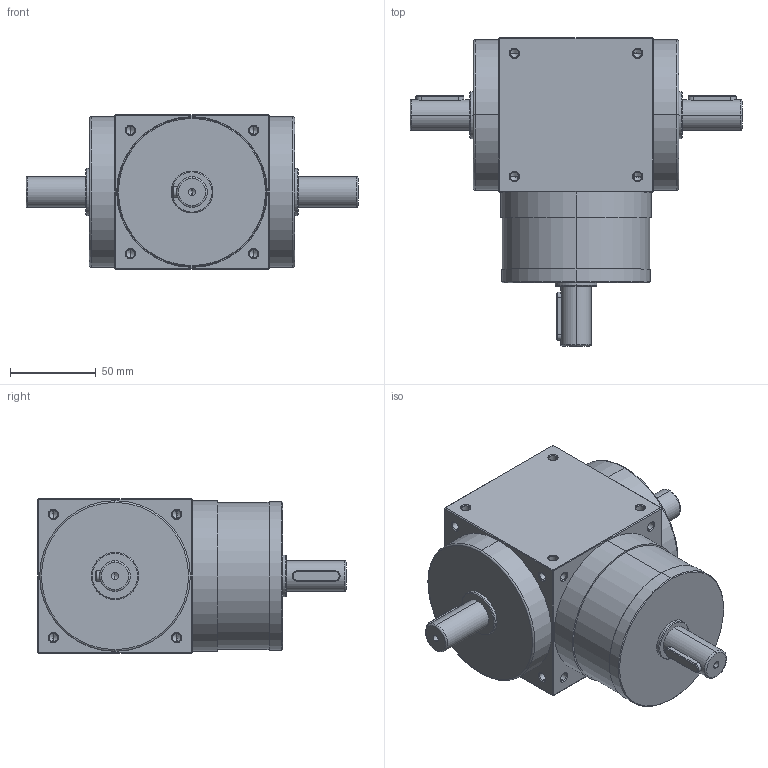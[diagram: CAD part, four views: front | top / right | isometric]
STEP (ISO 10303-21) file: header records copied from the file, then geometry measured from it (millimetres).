
FILE_DESCRIPTION (( 'STEP AP214' ), '1' );
FILE_NAME ('AT090-L-L1.STEP', '2019-08-16T06:26:45', ( 'User' ), ( 'Far123' ), 'SwSTEP 2.0', 'SolidWorks 2015', '' );
FILE_SCHEMA (( 'AUTOMOTIVE_DESIGN' ));
Length unit declared in the file: millimetre
Products named in the file (1): AT090-L-L1
Bounding box: 194 x 180 x 90 mm (x, y, z)
Volume: 1248985.6 mm3; surface area: 82177.6 mm2
Topology: 1 solids, 1 shells, 308 faces, 784 edges, 433 vertices
Faces by surface type: cylinder 130, cone 116, plane 52, torus 10
Entity records: 9924 total; most frequent: CARTESIAN_POINT 2138, ORIENTED_EDGE 1460, DIRECTION 1422, EDGE_CURVE 730, AXIS2_PLACEMENT_3D 549, VERTEX_POINT 433, EDGE_LOOP 349, VECTOR 324
